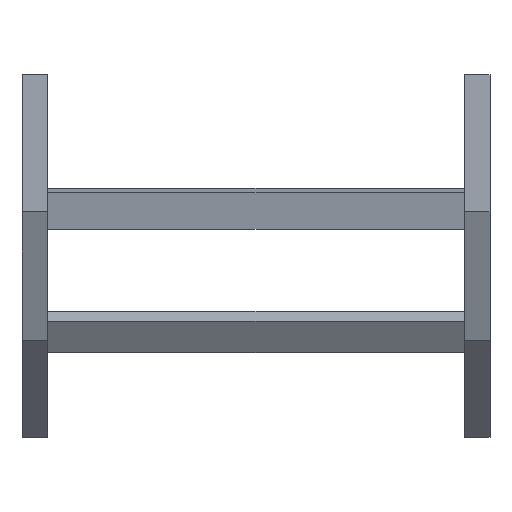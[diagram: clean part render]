
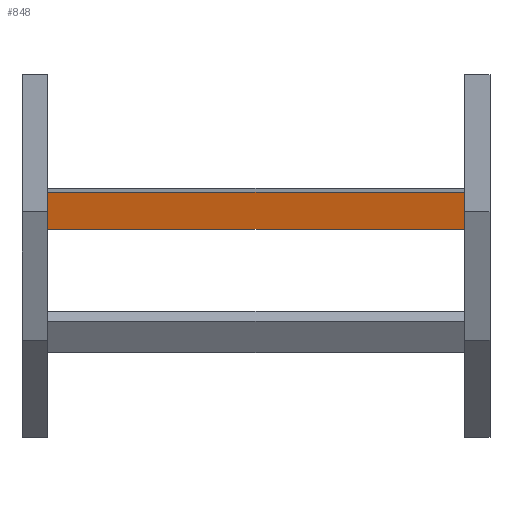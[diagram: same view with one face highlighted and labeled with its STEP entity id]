
A CAD part, front view. The second image highlights one B-rep face of the part: STEP entity #848.
In plain terms, the highlighted planar face has unit normal (0, -0.981, -0.195) as drawn and (0, -1, 0) by its records, which use the part's own axes.
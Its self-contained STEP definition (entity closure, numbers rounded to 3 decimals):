
#97 = VERTEX_POINT ( 'NONE', #517 ) ;
#128 = EDGE_CURVE ( 'NONE', #662, #778, #884, .T. ) ;
#157 = EDGE_CURVE ( 'NONE', #97, #778, #844, .T. ) ;
#177 = EDGE_CURVE ( 'NONE', #207, #97, #1222, .T. ) ;
#207 = VERTEX_POINT ( 'NONE', #1332 ) ;
#269 = DIRECTION ( 'NONE',  ( 0., 0., 1. ) ) ;
#334 = VECTOR ( 'NONE', #1470, 1000. ) ;
#363 = LINE ( 'NONE', #704, #808 ) ;
#378 = CARTESIAN_POINT ( 'NONE',  ( 248., 0., 20.25 ) ) ;
#414 = ORIENTED_EDGE ( 'NONE', *, *, #128, .F. ) ;
#456 = CARTESIAN_POINT ( 'NONE',  ( -248., 0., -20.25 ) ) ;
#517 = CARTESIAN_POINT ( 'NONE',  ( -248., 0., 20.25 ) ) ;
#576 = DIRECTION ( 'NONE',  ( 0., 0., -1. ) ) ;
#635 = CARTESIAN_POINT ( 'NONE',  ( 248., 0., -20.25 ) ) ;
#647 = EDGE_CURVE ( 'NONE', #207, #662, #363, .T. ) ;
#662 = VERTEX_POINT ( 'NONE', #1224 ) ;
#704 = CARTESIAN_POINT ( 'NONE',  ( 248., 0., 20.25 ) ) ;
#714 = FACE_OUTER_BOUND ( 'NONE', #1133, .T. ) ;
#774 = ORIENTED_EDGE ( 'NONE', *, *, #157, .T. ) ;
#778 = VERTEX_POINT ( 'NONE', #456 ) ;
#808 = VECTOR ( 'NONE', #576, 1000. ) ;
#831 = DIRECTION ( 'NONE',  ( 0., 1., 0. ) ) ;
#844 = LINE ( 'NONE', #1205, #1387 ) ;
#848 = ADVANCED_FACE ( 'NONE', ( #714 ), #941, .F. ) ;
#884 = LINE ( 'NONE', #635, #334 ) ;
#926 = AXIS2_PLACEMENT_3D ( 'NONE', #1195, #831, #269 ) ;
#941 = PLANE ( 'NONE',  #926 ) ;
#1032 = VECTOR ( 'NONE', #1448, 1000. ) ;
#1133 = EDGE_LOOP ( 'NONE', ( #774, #414, #1253, #1461 ) ) ;
#1195 = CARTESIAN_POINT ( 'NONE',  ( 248., 0., 20.25 ) ) ;
#1205 = CARTESIAN_POINT ( 'NONE',  ( -248., 0., 20.25 ) ) ;
#1222 = LINE ( 'NONE', #378, #1032 ) ;
#1224 = CARTESIAN_POINT ( 'NONE',  ( 248., 0., -20.25 ) ) ;
#1253 = ORIENTED_EDGE ( 'NONE', *, *, #647, .F. ) ;
#1332 = CARTESIAN_POINT ( 'NONE',  ( 248., 0., 20.25 ) ) ;
#1384 = DIRECTION ( 'NONE',  ( 0., 0., -1. ) ) ;
#1387 = VECTOR ( 'NONE', #1384, 1000. ) ;
#1448 = DIRECTION ( 'NONE',  ( -1., 0., 0. ) ) ;
#1461 = ORIENTED_EDGE ( 'NONE', *, *, #177, .T. ) ;
#1470 = DIRECTION ( 'NONE',  ( -1., 0., 0. ) ) ;
